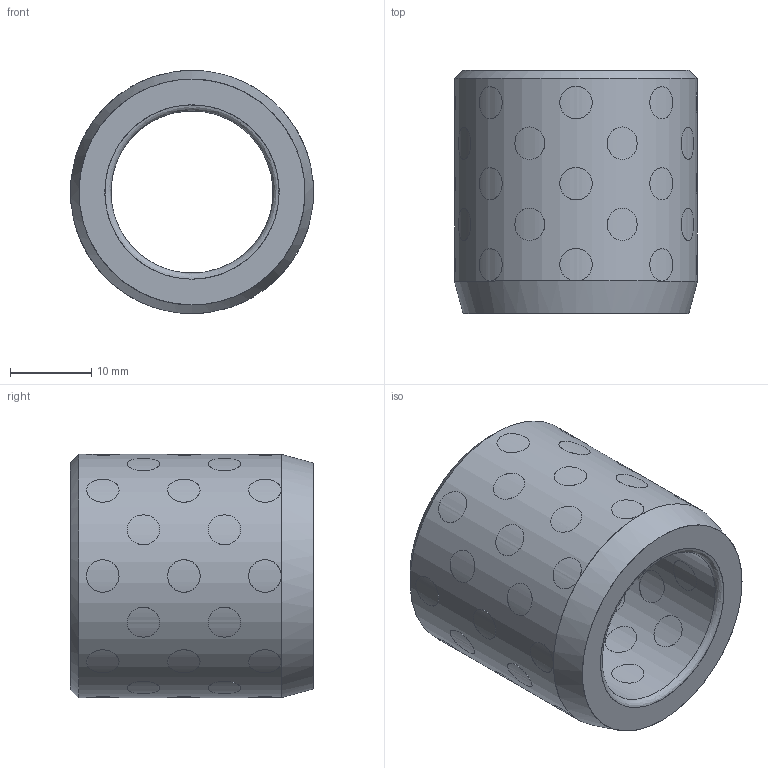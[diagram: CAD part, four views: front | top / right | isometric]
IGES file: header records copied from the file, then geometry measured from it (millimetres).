
Start section: Missler Software BP 521, 31674 Labege Cedex, France Tel   : +33 (0)5 61 00 03 00 Fax   : +33 (0)5 61 00 03 03 Email : sup.topsolid@topsolid.com
Global section: file name: D:\Cuma\18 03 2010\D30.04-2\D30.04_203030.igs; native system: TopSolid v605250 Missler Software; preprocessor: IGES preprocessor v100000; date: 030126.003729; units: millimetre
Bounding box: 30 x 30 x 30 mm (x, y, z)
Surface area: 9565.1 mm2 (no closed solid volume)
Topology: 0 solids, 0 shells, 152 faces, 3317 edges, 3216 vertices
Faces by surface type: bspline 152
